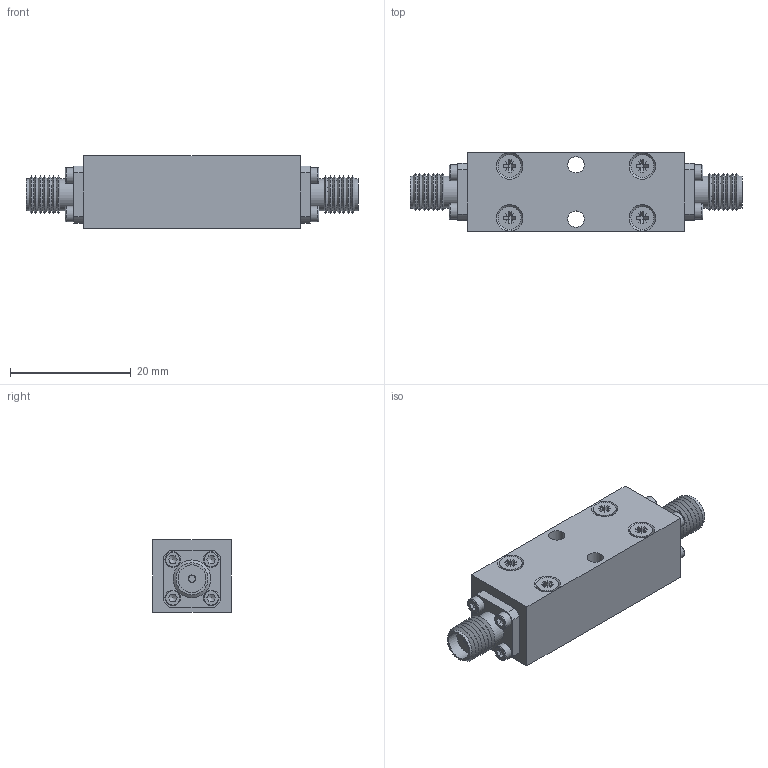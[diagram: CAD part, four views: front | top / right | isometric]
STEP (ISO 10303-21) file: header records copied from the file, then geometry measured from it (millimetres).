
FILE_DESCRIPTION(/* description */ ('Unknown'),/* implementation_level */ '2;1');
FILE_NAME(/* name */ 'DETI_MICROWAVE_LOWPASS_FILTER_011006_STEP',/* time_stamp */ '2021-06-01T11:28:45+02:00',/* author */ ('ALG'),/* organization */ ('DETI'),/* preprocessor_version */ 'ST-DEVELOPER v16.7',/* originating_system */ 'Solid Edge',/* authorisation */ 'Unknown');
FILE_SCHEMA (('AUTOMOTIVE_DESIGN {1 0 10303 214 3 1 1}'));
Length unit declared in the file: millimetre
Products named in the file (1): LPF-SS-8000-12000-24000-40-SF-SF2
Bounding box: 55 x 13 x 12 mm (x, y, z)
Volume: 5193 mm3; surface area: 4239.5 mm2
Topology: 1 solids, 18 shells, 404 faces, 1022 edges, 666 vertices
Faces by surface type: plane 258, cylinder 82, cone 52, torus 12
Full cylindrical faces by diameter (mm): 1.075 x8, 1.1 x2, 1.27 x4, 1.4 x8, 1.8 x8, 2 x4, 2.2 x4, 2.6 x8, 2.7 x2, 3.8 x4, 4.1 x2, 4.6 x2, 5.3 x4
Entity records: 13848 total; most frequent: CARTESIAN_POINT 2129, DIRECTION 1770, ORIENTED_EDGE 1660, EDGE_CURVE 830, AXIS2_PLACEMENT_3D 611, VERTEX_POINT 610, FACE_BOUND 580, EDGE_LOOP 564
